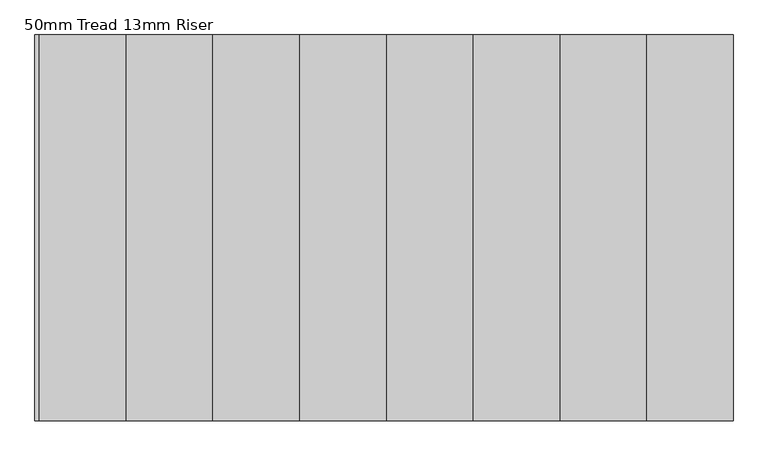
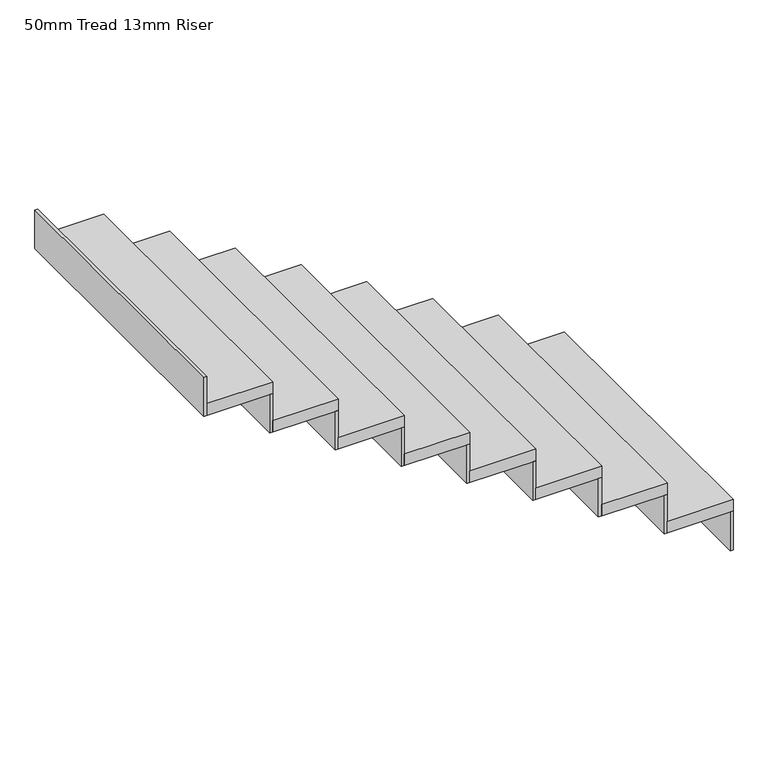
"""IFC4 building model written with IfcOpenShell, lengths in millimetres: stair flight geometry, 50mm Tread 13mm Riser."""

from ifc_helpers import new_model, si_unit, frame, origin, place, context, project, spatial, polyline, outline, extrude, source, transform, mapped, element, save


def stair_flight_50mm_tread_13mm_riser_ee1dcc22(model_context):
    return source(origin(), model_context, "Body", "SweptSolid", [
        extrude(outline(polyline([(-106830.3719448, 38178.2777512), (-106817.8719448, 38178.2777512), (-106817.8719448, 36978.2777512), (-106830.3719448, 36978.2777512), (-106830.3719448, 38178.2777512)])), frame((0.0, 0.0, 46612.5), z_axis=(0.0, 0.0, 1.0), x_axis=(1.0, 0.0, 0.0)), (0.0, 0.0, 1.0), 167.5),
        extrude(outline(polyline([(-107087.8719448, 36978.2777512), (-107087.8719448, 38178.2777512), (-106817.8719448, 38178.2777512), (-106817.8719448, 36978.2777512), (-107087.8719448, 36978.2777512)])), frame((0.0, 0.0, 46780.0), z_axis=(0.0, 0.0, 1.0), x_axis=(1.0, 0.0, 0.0)), (0.0, 0.0, 1.0), 50.0),
        extrude(outline(polyline([(-107100.3719448, 38178.2777512), (-107087.8719448, 38178.2777512), (-107087.8719448, 36978.2777512), (-107100.3719448, 36978.2777512), (-107100.3719448, 38178.2777512)])), frame((0.0, 0.0, 46780.0), z_axis=(0.0, 0.0, 1.0), x_axis=(1.0, 0.0, 0.0)), (0.0, 0.0, 1.0), 167.5),
        extrude(outline(polyline([(-107357.8719448, 36978.2777512), (-107357.8719448, 38178.2777512), (-107087.8719448, 38178.2777512), (-107087.8719448, 36978.2777512), (-107357.8719448, 36978.2777512)])), frame((0.0, 0.0, 46947.5), z_axis=(0.0, 0.0, 1.0), x_axis=(1.0, 0.0, 0.0)), (0.0, 0.0, 1.0), 50.0),
        extrude(outline(polyline([(-107370.3719448, 38178.2777512), (-107357.8719448, 38178.2777512), (-107357.8719448, 36978.2777512), (-107370.3719448, 36978.2777512), (-107370.3719448, 38178.2777512)])), frame((0.0, 0.0, 46947.5), z_axis=(0.0, 0.0, 1.0), x_axis=(1.0, 0.0, 0.0)), (0.0, 0.0, 1.0), 167.5),
        extrude(outline(polyline([(-107627.8719448, 36978.2777512), (-107627.8719448, 38178.2777512), (-107357.8719448, 38178.2777512), (-107357.8719448, 36978.2777512), (-107627.8719448, 36978.2777512)])), frame((0.0, 0.0, 47115.0), z_axis=(0.0, 0.0, 1.0), x_axis=(1.0, 0.0, 0.0)), (0.0, 0.0, 1.0), 50.0),
        extrude(outline(polyline([(-107640.3719448, 38178.2777512), (-107627.8719448, 38178.2777512), (-107627.8719448, 36978.2777512), (-107640.3719448, 36978.2777512), (-107640.3719448, 38178.2777512)])), frame((0.0, 0.0, 47115.0), z_axis=(0.0, 0.0, 1.0), x_axis=(1.0, 0.0, 0.0)), (0.0, 0.0, 1.0), 167.5),
        extrude(outline(polyline([(-107897.8719448, 36978.2777512), (-107897.8719448, 38178.2777512), (-107627.8719448, 38178.2777512), (-107627.8719448, 36978.2777512), (-107897.8719448, 36978.2777512)])), frame((0.0, 0.0, 47282.5), z_axis=(0.0, 0.0, 1.0), x_axis=(1.0, 0.0, 0.0)), (0.0, 0.0, 1.0), 50.0),
        extrude(outline(polyline([(-107910.3719448, 38178.2777512), (-107897.8719448, 38178.2777512), (-107897.8719448, 36978.2777512), (-107910.3719448, 36978.2777512), (-107910.3719448, 38178.2777512)])), frame((0.0, 0.0, 47282.5), z_axis=(0.0, 0.0, 1.0), x_axis=(1.0, 0.0, 0.0)), (0.0, 0.0, 1.0), 167.5),
        extrude(outline(polyline([(-108167.8719448, 36978.2777512), (-108167.8719448, 38178.2777512), (-107897.8719448, 38178.2777512), (-107897.8719448, 36978.2777512), (-108167.8719448, 36978.2777512)])), frame((0.0, 0.0, 47450.0), z_axis=(0.0, 0.0, 1.0), x_axis=(1.0, 0.0, 0.0)), (0.0, 0.0, 1.0), 50.0),
        extrude(outline(polyline([(-108180.3719448, 38178.2777512), (-108167.8719448, 38178.2777512), (-108167.8719448, 36978.2777512), (-108180.3719448, 36978.2777512), (-108180.3719448, 38178.2777512)])), frame((0.0, 0.0, 47450.0), z_axis=(0.0, 0.0, 1.0), x_axis=(1.0, 0.0, 0.0)), (0.0, 0.0, 1.0), 167.5),
        extrude(outline(polyline([(-108437.8719448, 36978.2777512), (-108437.8719448, 38178.2777512), (-108167.8719448, 38178.2777512), (-108167.8719448, 36978.2777512), (-108437.8719448, 36978.2777512)])), frame((0.0, 0.0, 47617.5), z_axis=(0.0, 0.0, 1.0), x_axis=(1.0, 0.0, 0.0)), (0.0, 0.0, 1.0), 50.0),
        extrude(outline(polyline([(-108450.3719448, 38178.2777512), (-108437.8719448, 38178.2777512), (-108437.8719448, 36978.2777512), (-108450.3719448, 36978.2777512), (-108450.3719448, 38178.2777512)])), frame((0.0, 0.0, 47617.5), z_axis=(0.0, 0.0, 1.0), x_axis=(1.0, 0.0, 0.0)), (0.0, 0.0, 1.0), 167.5),
        extrude(outline(polyline([(-108707.8719448, 36978.2777512), (-108707.8719448, 38178.2777512), (-108437.8719448, 38178.2777512), (-108437.8719448, 36978.2777512), (-108707.8719448, 36978.2777512)])), frame((0.0, 0.0, 47785.0), z_axis=(0.0, 0.0, 1.0), x_axis=(1.0, 0.0, 0.0)), (0.0, 0.0, 1.0), 50.0),
        extrude(outline(polyline([(-108720.3719448, 38178.2777512), (-108707.8719448, 38178.2777512), (-108707.8719448, 36978.2777512), (-108720.3719448, 36978.2777512), (-108720.3719448, 38178.2777512)])), frame((0.0, 0.0, 47785.0), z_axis=(0.0, 0.0, 1.0), x_axis=(1.0, 0.0, 0.0)), (0.0, 0.0, 1.0), 167.5),
        extrude(outline(polyline([(-108990.3719448, 38178.2777512), (-108977.8719448, 38178.2777512), (-108977.8719448, 36978.2777512), (-108990.3719448, 36978.2777512), (-108990.3719448, 38178.2777512)])), frame((0.0, 0.0, 47952.5), z_axis=(0.0, 0.0, 1.0), x_axis=(1.0, 0.0, 0.0)), (0.0, 0.0, 1.0), 167.5),
        extrude(outline(polyline([(-108977.8719448, 36978.2777512), (-108977.8719448, 38178.2777512), (-108707.8719448, 38178.2777512), (-108707.8719448, 36978.2777512), (-108977.8719448, 36978.2777512)])), frame((0.0, 0.0, 47952.5), z_axis=(0.0, 0.0, 1.0), x_axis=(1.0, 0.0, 0.0)), (0.0, 0.0, 1.0), 50.0),
    ])


if __name__ == "__main__":
    model = new_model("IFC4")
    model_context = context("Model", 3, world=origin())
    ifc_project = project(units=[si_unit("LENGTHUNIT", "METRE", prefix="MILLI")], contexts=[model_context])
    site = spatial("IfcSite", under=ifc_project)
    building = spatial("IfcBuilding", under=site)
    placement = place(None, origin())
    stair_flight_50mm_tread_13mm_riser_shape = stair_flight_50mm_tread_13mm_riser_ee1dcc22(model_context)
    element("IfcStairFlight", 1, ObjectType="50mm Tread 13mm Riser", at=placement, inside=building, context=model_context, shape_type="MappedRepresentation", body=[
        mapped(stair_flight_50mm_tread_13mm_riser_shape, transform((0.0, 0.0, 0.0), x_axis=(1.0, 0.0, 0.0), y_axis=(0.0, 1.0, 0.0), z_axis=(0.0, 0.0, 1.0))),
    ])
    save(model, "model.ifc")
